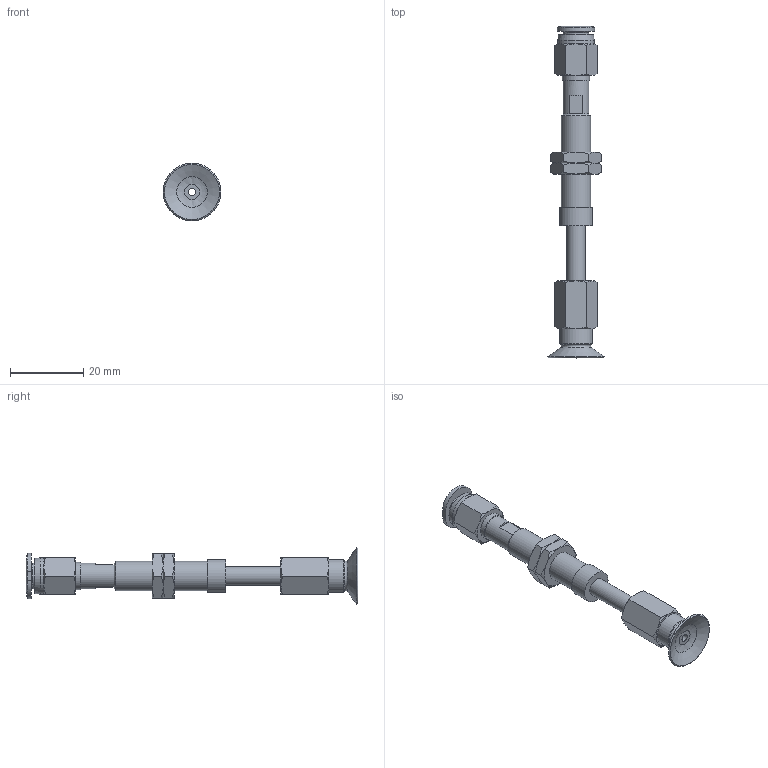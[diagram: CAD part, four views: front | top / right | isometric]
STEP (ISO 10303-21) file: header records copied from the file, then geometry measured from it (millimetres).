
FILE_DESCRIPTION(('STEP AP203'),'1');
FILE_NAME('-O.stp','2025-08-27T05:56:06',(' '),(' '),'Spatial InterOp 3D',' ',' ');
FILE_SCHEMA(('CONFIG_CONTROL_DESIGN'));
Length unit declared in the file: millimetre
Products named in the file (7): BNABPFTS-15A-15-※-O; ADAPTER; NAPATS-10A-15--M; Nut-15A-15-s; NAPFTS-15A-15-FBODY; BPFG-15A-※; PC-C_06-M5
Assembly tree (7 placements, depth 2):
  BNABPFTS-15A-15-※-O
    ADAPTER
    NAPATS-10A-15--M
    Nut-15A-15-s  x2
    NAPFTS-15A-15-FBODY
    BPFG-15A-※
    PC-C_06-M5
Bounding box: 15.7 x 90.48 x 15.7 mm (x, y, z)
Volume: 4048.8 mm3; surface area: 5961.8 mm2
Topology: 6 solids, 9 shells, 164 faces, 336 edges, 202 vertices
Faces by surface type: cone 62, plane 58, cylinder 25, torus 11, bspline 5, revolution 3
Full cylindrical faces by diameter (mm): 2 x3, 4 x4, 4.134 x1, 5 x3, 6 x2, 7 x2, 7.188 x2, 7.4 x1, 8 x1, 8.2 x1, 9 x2, 10 x1
Entity records: 4179 total; most frequent: CARTESIAN_POINT 1209, DIRECTION 549, ORIENTED_EDGE 458, AXIS2_PLACEMENT_3D 253, EDGE_CURVE 231, EDGE_LOOP 214, VERTEX_POINT 165, FACE_OUTER_BOUND 115
